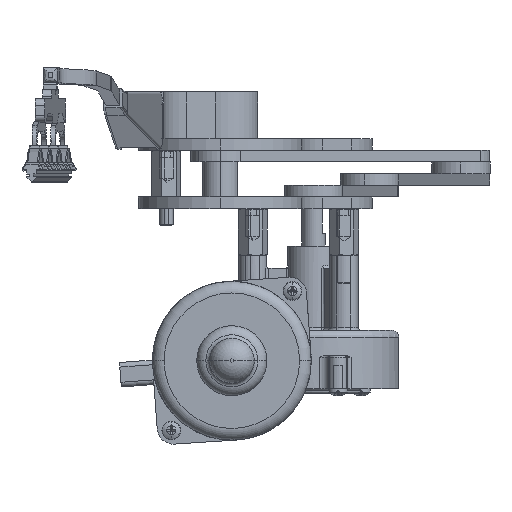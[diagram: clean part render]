
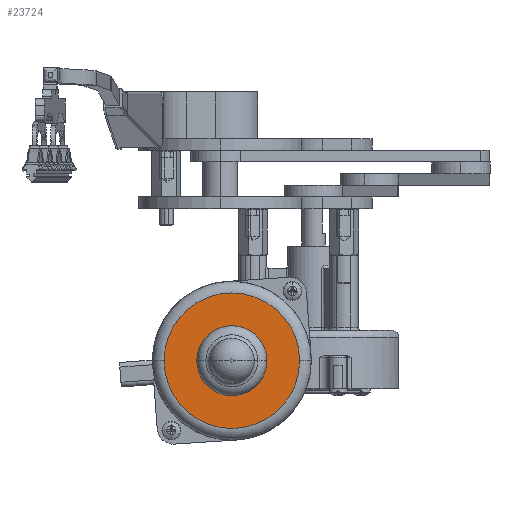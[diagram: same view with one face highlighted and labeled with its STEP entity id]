
A CAD part, left-side view. The second image highlights one B-rep face of the part: STEP entity #23724.
In plain terms, the highlighted planar face has unit normal (-1, 0, 0) as drawn and (0, -1, 0) by its records, which use the part's own axes.
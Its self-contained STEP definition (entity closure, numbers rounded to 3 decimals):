
#1356 = DIRECTION ( 'NONE',  ( 0., 0., 1. ) ) ;
#1870 = EDGE_CURVE ( 'NONE', #8073, #13898, #29702, .T. ) ;
#2047 = DIRECTION ( 'NONE',  ( 0., 0., 1. ) ) ;
#2250 = CARTESIAN_POINT ( 'NONE',  ( 0., 0., -29. ) ) ;
#2503 = CARTESIAN_POINT ( 'NONE',  ( 0., 0., 0. ) ) ;
#2722 = DIRECTION ( 'NONE',  ( 0., 0., -1. ) ) ;
#2871 = PLANE ( 'NONE',  #30187 ) ;
#4311 = CARTESIAN_POINT ( 'NONE',  ( 0., 0., 29. ) ) ;
#5839 = EDGE_CURVE ( 'NONE', #37582, #31178, #15959, .T. ) ;
#7607 = CIRCLE ( 'NONE', #14926, 29. ) ;
#8073 = VERTEX_POINT ( 'NONE', #4311 ) ;
#10307 = ORIENTED_EDGE ( 'NONE', *, *, #5839, .F. ) ;
#10670 = EDGE_LOOP ( 'NONE', ( #10307, #27403 ) ) ;
#11649 = FACE_BOUND ( 'NONE', #10670, .T. ) ;
#12942 = CARTESIAN_POINT ( 'NONE',  ( 0., 0., -15. ) ) ;
#13169 = AXIS2_PLACEMENT_3D ( 'NONE', #22493, #28265, #2047 ) ;
#13898 = VERTEX_POINT ( 'NONE', #2250 ) ;
#14570 = CARTESIAN_POINT ( 'NONE',  ( 0., 0., 0. ) ) ;
#14665 = CIRCLE ( 'NONE', #33073, 15. ) ;
#14691 = CARTESIAN_POINT ( 'NONE',  ( 0., 0., 15. ) ) ;
#14926 = AXIS2_PLACEMENT_3D ( 'NONE', #15857, #27548, #1356 ) ;
#15857 = CARTESIAN_POINT ( 'NONE',  ( 0., 0., 0. ) ) ;
#15959 = CIRCLE ( 'NONE', #36169, 15. ) ;
#16031 = ORIENTED_EDGE ( 'NONE', *, *, #24111, .T. ) ;
#17532 = ORIENTED_EDGE ( 'NONE', *, *, #1870, .T. ) ;
#21522 = DIRECTION ( 'NONE',  ( 0., -1., 0. ) ) ;
#21890 = DIRECTION ( 'NONE',  ( 0., 0., -1. ) ) ;
#22493 = CARTESIAN_POINT ( 'NONE',  ( 0., 0., 0. ) ) ;
#22776 = FACE_OUTER_BOUND ( 'NONE', #32264, .T. ) ;
#23528 = DIRECTION ( 'NONE',  ( 0., 0., 1. ) ) ;
#23724 = ADVANCED_FACE ( 'NONE', ( #22776, #11649 ), #2871, .F. ) ;
#24111 = EDGE_CURVE ( 'NONE', #13898, #8073, #7607, .T. ) ;
#24762 = CARTESIAN_POINT ( 'NONE',  ( 0., 0., 0. ) ) ;
#25649 = DIRECTION ( 'NONE',  ( 0., 1., 0. ) ) ;
#27403 = ORIENTED_EDGE ( 'NONE', *, *, #30885, .F. ) ;
#27548 = DIRECTION ( 'NONE',  ( 0., -1., 0. ) ) ;
#28265 = DIRECTION ( 'NONE',  ( 0., -1., 0. ) ) ;
#28960 = DIRECTION ( 'NONE',  ( 0., -1., 0. ) ) ;
#29702 = CIRCLE ( 'NONE', #13169, 29. ) ;
#30187 = AXIS2_PLACEMENT_3D ( 'NONE', #2503, #25649, #23528 ) ;
#30885 = EDGE_CURVE ( 'NONE', #31178, #37582, #14665, .T. ) ;
#31178 = VERTEX_POINT ( 'NONE', #12942 ) ;
#32264 = EDGE_LOOP ( 'NONE', ( #17532, #16031 ) ) ;
#33073 = AXIS2_PLACEMENT_3D ( 'NONE', #24762, #21522, #21890 ) ;
#36169 = AXIS2_PLACEMENT_3D ( 'NONE', #14570, #28960, #2722 ) ;
#37582 = VERTEX_POINT ( 'NONE', #14691 ) ;
